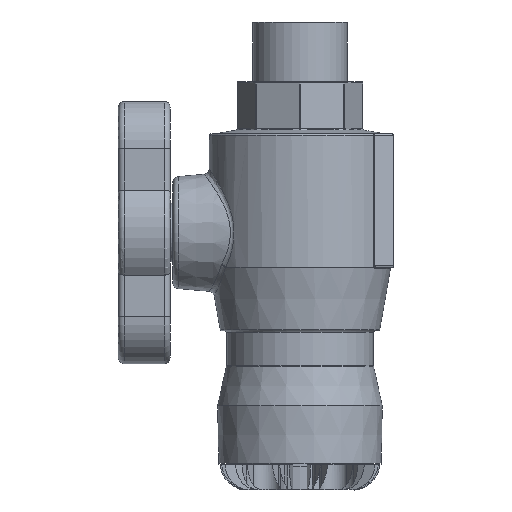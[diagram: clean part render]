
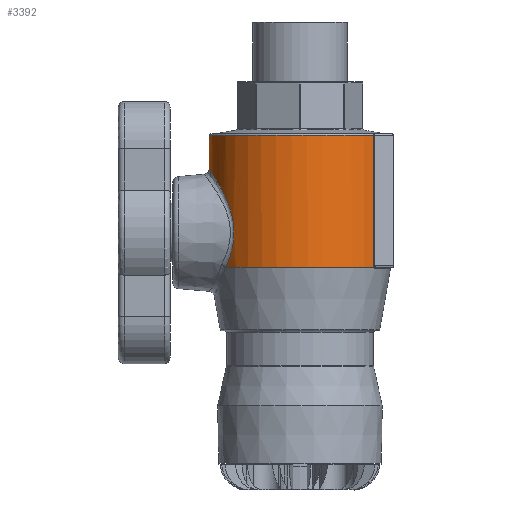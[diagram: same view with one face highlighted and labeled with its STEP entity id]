
A CAD part, left-side view. The second image highlights one B-rep face of the part: STEP entity #3392.
In plain terms, the highlighted cylindrical face has radius 32 mm (diameter 64 mm), a partial arc.
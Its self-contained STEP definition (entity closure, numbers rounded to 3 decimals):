
#129=B_SPLINE_CURVE_WITH_KNOTS('',3,(#6365,#6366,#6367,#6368,#6369,#6370,
#6371,#6372,#6373,#6374,#6375,#6376,#6377,#6378,#6379,#6380),
 .UNSPECIFIED.,.F.,.F.,(4,1,1,1,1,1,1,1,1,1,1,1,1,4),(-10.173,
-9.446,-8.72,-7.993,-7.267,
-6.54,-5.813,-4.844,-4.36,-2.907,
-2.18,-1.453,-0.727,0.),
 .UNSPECIFIED.);
#131=B_SPLINE_CURVE_WITH_KNOTS('',3,(#6401,#6402,#6403,#6404),
 .UNSPECIFIED.,.F.,.F.,(4,4),(0.,0.051),
 .UNSPECIFIED.);
#132=B_SPLINE_CURVE_WITH_KNOTS('',3,(#6412,#6413,#6414,#6415),
 .UNSPECIFIED.,.F.,.F.,(4,4),(-0.051,0.),.UNSPECIFIED.);
#216=CYLINDRICAL_SURFACE('',#3731,32.);
#440=FACE_OUTER_BOUND('',#656,.T.);
#656=EDGE_LOOP('',(#2688,#2689,#2690,#2691,#2692,#2693,#2694,#2695));
#873=LINE('',#6406,#1044);
#874=LINE('',#6410,#1045);
#1044=VECTOR('',#4462,10.);
#1045=VECTOR('',#4465,10.);
#1235=CIRCLE('',#3732,32.);
#1236=CIRCLE('',#3733,32.);
#1237=CIRCLE('',#3734,32.);
#1526=VERTEX_POINT('',#6134);
#1532=VERTEX_POINT('',#6274);
#1533=VERTEX_POINT('',#6398);
#1534=VERTEX_POINT('',#6400);
#1535=VERTEX_POINT('',#6405);
#1536=VERTEX_POINT('',#6407);
#1537=VERTEX_POINT('',#6409);
#1538=VERTEX_POINT('',#6411);
#1949=EDGE_CURVE('',#1526,#1532,#129,.T.);
#1951=EDGE_CURVE('',#1533,#1526,#1235,.T.);
#1952=EDGE_CURVE('',#1534,#1533,#131,.T.);
#1953=EDGE_CURVE('',#1535,#1534,#873,.T.);
#1954=EDGE_CURVE('',#1536,#1535,#1236,.T.);
#1955=EDGE_CURVE('',#1537,#1536,#874,.T.);
#1956=EDGE_CURVE('',#1538,#1537,#132,.T.);
#1957=EDGE_CURVE('',#1532,#1538,#1237,.T.);
#2688=ORIENTED_EDGE('',*,*,#1949,.F.);
#2689=ORIENTED_EDGE('',*,*,#1951,.F.);
#2690=ORIENTED_EDGE('',*,*,#1952,.F.);
#2691=ORIENTED_EDGE('',*,*,#1953,.F.);
#2692=ORIENTED_EDGE('',*,*,#1954,.F.);
#2693=ORIENTED_EDGE('',*,*,#1955,.F.);
#2694=ORIENTED_EDGE('',*,*,#1956,.F.);
#2695=ORIENTED_EDGE('',*,*,#1957,.F.);
#3392=ADVANCED_FACE('',(#440),#216,.T.);
#3731=AXIS2_PLACEMENT_3D('',#6397,#4458,#4459);
#3732=AXIS2_PLACEMENT_3D('',#6399,#4460,#4461);
#3733=AXIS2_PLACEMENT_3D('',#6408,#4463,#4464);
#3734=AXIS2_PLACEMENT_3D('',#6416,#4466,#4467);
#4458=DIRECTION('center_axis',(0.,0.,-1.));
#4459=DIRECTION('ref_axis',(0.,1.,0.));
#4460=DIRECTION('center_axis',(0.,0.,-1.));
#4461=DIRECTION('ref_axis',(-1.,0.01,0.));
#4462=DIRECTION('',(0.,0.,-1.));
#4463=DIRECTION('center_axis',(0.,0.,1.));
#4464=DIRECTION('ref_axis',(0.,1.,0.));
#4465=DIRECTION('',(0.,0.,1.));
#4466=DIRECTION('center_axis',(0.,0.,
-1.));
#4467=DIRECTION('ref_axis',(-1.,-0.017,0.));
#6134=CARTESIAN_POINT('',(-18.447,26.148,-86.455));
#6274=CARTESIAN_POINT('',(18.447,26.148,-86.455));
#6365=CARTESIAN_POINT('Ctrl Pts',(-18.447,26.148,-86.455));
#6366=CARTESIAN_POINT('Ctrl Pts',(-19.63,25.313,-84.583));
#6367=CARTESIAN_POINT('Ctrl Pts',(-21.515,23.725,-80.437));
#6368=CARTESIAN_POINT('Ctrl Pts',(-22.357,22.886,-73.067));
#6369=CARTESIAN_POINT('Ctrl Pts',(-20.808,24.383,-65.993));
#6370=CARTESIAN_POINT('Ctrl Pts',(-17.505,26.935,-60.154));
#6371=CARTESIAN_POINT('Ctrl Pts',(-12.798,29.518,-55.555));
#6372=CARTESIAN_POINT('Ctrl Pts',(-6.17,31.726,-52.107));
#6373=CARTESIAN_POINT('Ctrl Pts',(0.804,32.249,-51.326));
#6374=CARTESIAN_POINT('Ctrl Pts',(9.743,30.953,-53.309));
#6375=CARTESIAN_POINT('Ctrl Pts',(16.423,27.79,-58.219));
#6376=CARTESIAN_POINT('Ctrl Pts',(20.801,24.381,-65.989));
#6377=CARTESIAN_POINT('Ctrl Pts',(22.36,22.887,-73.069));
#6378=CARTESIAN_POINT('Ctrl Pts',(21.514,23.725,-80.437));
#6379=CARTESIAN_POINT('Ctrl Pts',(19.63,25.313,-84.583));
#6380=CARTESIAN_POINT('Ctrl Pts',(18.447,26.148,-86.455));
#6397=CARTESIAN_POINT('Origin',(0.,0.,-62.966));
#6398=CARTESIAN_POINT('',(-18.48,-26.124,-86.455));
#6399=CARTESIAN_POINT('Origin',(0.,0.,-86.455));
#6400=CARTESIAN_POINT('',(-18.636,-26.014,-85.998));
#6401=CARTESIAN_POINT('Ctrl Pts',(-18.636,-26.014,-85.998));
#6402=CARTESIAN_POINT('Ctrl Pts',(-18.636,-26.014,-86.168));
#6403=CARTESIAN_POINT('Ctrl Pts',(-18.571,-26.06,-86.329));
#6404=CARTESIAN_POINT('Ctrl Pts',(-18.48,-26.124,-86.455));
#6405=CARTESIAN_POINT('',(-18.636,-26.014,-39.933));
#6406=CARTESIAN_POINT('',(-18.636,-26.014,-62.966));
#6407=CARTESIAN_POINT('',(18.636,-26.014,-39.933));
#6408=CARTESIAN_POINT('Origin',(0.,0.,-39.933));
#6409=CARTESIAN_POINT('',(18.636,-26.014,-85.998));
#6410=CARTESIAN_POINT('',(18.636,-26.014,-62.966));
#6411=CARTESIAN_POINT('',(18.48,-26.124,-86.455));
#6412=CARTESIAN_POINT('Ctrl Pts',(18.48,-26.124,-86.455));
#6413=CARTESIAN_POINT('Ctrl Pts',(18.571,-26.06,-86.329));
#6414=CARTESIAN_POINT('Ctrl Pts',(18.636,-26.014,-86.168));
#6415=CARTESIAN_POINT('Ctrl Pts',(18.636,-26.014,-85.998));
#6416=CARTESIAN_POINT('Origin',(0.,0.,
-86.455));
